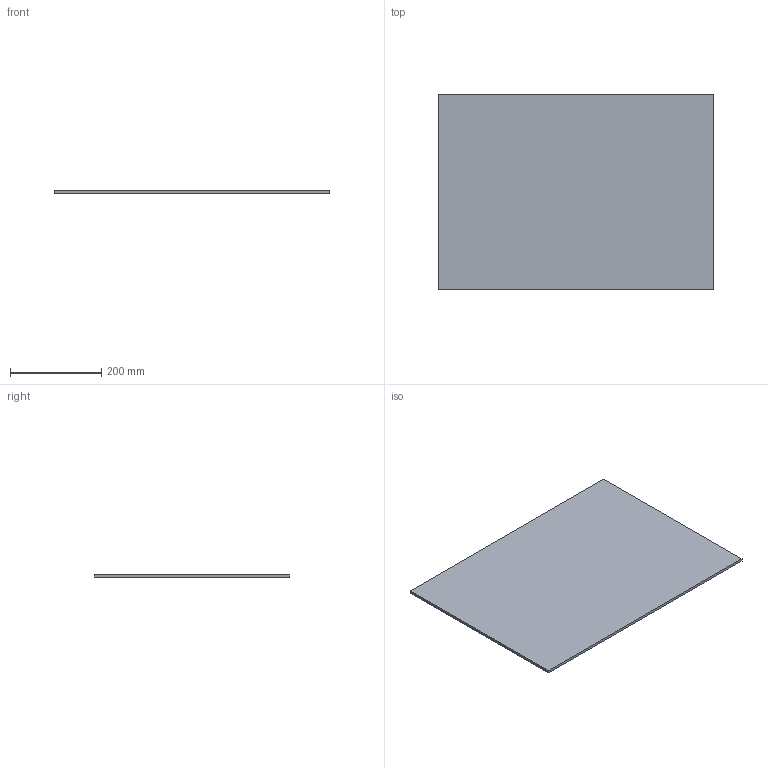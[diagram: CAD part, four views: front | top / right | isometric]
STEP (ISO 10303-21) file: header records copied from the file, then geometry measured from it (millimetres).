
FILE_DESCRIPTION (( 'STEP AP214' ), '1' );
FILE_NAME ('Lochblech_NL450_KAB700_19.step', '2010-10-11T13:38:30', ( 'grass' ), ( '' ), 'SwSTEP 2.0', 'SolidWorks 2010', '' );
FILE_SCHEMA (( 'AUTOMOTIVE_DESIGN' ));
Length unit declared in the file: millimetre
Products named in the file (1): Lochblech_NL450_KAB700_19
Bounding box: 602 x 429 x 6 mm (x, y, z)
Volume: 1549548 mm3; surface area: 528888 mm2
Topology: 1 solids, 1 shells, 6 faces, 12 edges, 8 vertices
Faces by surface type: plane 6
Entity records: 190 total; most frequent: CARTESIAN_POINT 27, DIRECTION 26, ORIENTED_EDGE 24, EDGE_CURVE 12, LINE 12, VECTOR 12, VERTEX_POINT 8, AXIS2_PLACEMENT_3D 7
